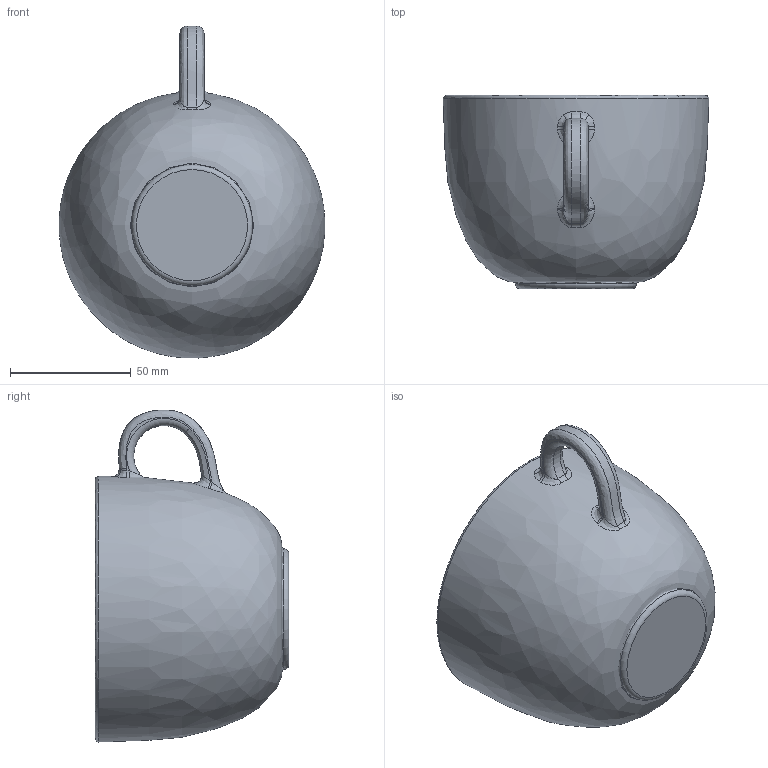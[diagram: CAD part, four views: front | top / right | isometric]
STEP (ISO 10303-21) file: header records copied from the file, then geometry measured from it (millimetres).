
FILE_DESCRIPTION(/* description */ (''),/* implementation_level */ '2;1');
FILE_NAME(/* name */ 'C:\Users\andre\Documents\SQA\Assignment\_ItemV1\STEP Files\Cup.stp',/* time_stamp */ '2020-07-28T10:26:47+01:00',/* author */ ('andre'),/* organization */ (''),/* preprocessor_version */ 'ST-DEVELOPER v17.2',/* originating_system */ 'Autodesk Inventor 2019',/* authorisation */ '');
FILE_SCHEMA (('AUTOMOTIVE_DESIGN { 1 0 10303 214 3 1 1 }'));
Length unit declared in the file: millimetre
Products named in the file (1): Cup
Bounding box: 109.92 x 80 x 137.34 mm (x, y, z)
Volume: 87018 mm3; surface area: 57635.9 mm2
Topology: 1 solids, 1 shells, 41 faces, 101 edges, 60 vertices
Faces by surface type: bspline 28, plane 6, torus 5, cylinder 2
Entity records: 4063 total; most frequent: CARTESIAN_POINT 3239, ORIENTED_EDGE 202, EDGE_CURVE 101, DIRECTION 101, B_SPLINE_CURVE_WITH_KNOTS 63, VERTEX_POINT 60, AXIS2_PLACEMENT_3D 49, FACE_OUTER_BOUND 41
